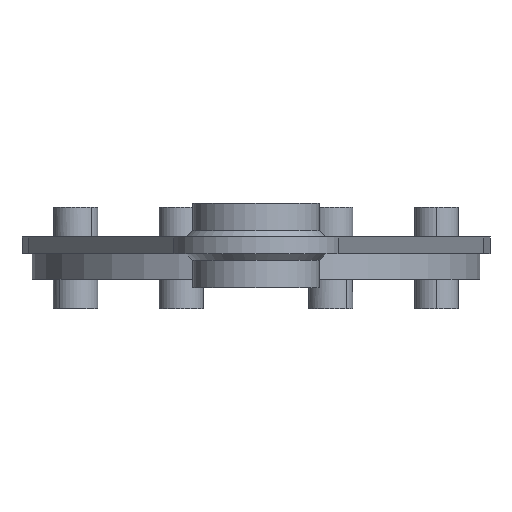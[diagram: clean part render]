
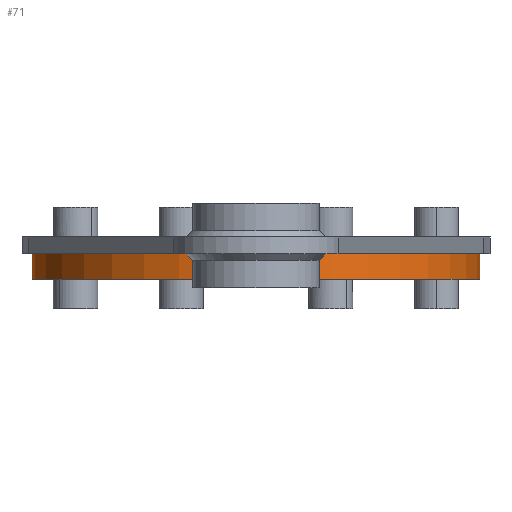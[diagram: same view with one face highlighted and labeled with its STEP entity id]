
A CAD part, front view. The second image highlights one B-rep face of the part: STEP entity #71.
In plain terms, the highlighted cylindrical face has radius 106 mm (diameter 212 mm), a partial arc.
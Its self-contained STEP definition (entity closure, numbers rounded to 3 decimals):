
#71=ADVANCED_FACE('',(#142),#1174,.T.);
#142=FACE_OUTER_BOUND('',#227,.T.);
#227=EDGE_LOOP('',(#414,#415,#416,#417));
#414=ORIENTED_EDGE('',*,*,#735,.T.);
#415=ORIENTED_EDGE('',*,*,#659,.F.);
#416=ORIENTED_EDGE('',*,*,#661,.F.);
#417=ORIENTED_EDGE('',*,*,#660,.T.);
#659=EDGE_CURVE('',#1042,#1121,#851,.T.);
#660=EDGE_CURVE('',#1068,#1120,#852,.T.);
#661=EDGE_CURVE('',#1068,#1042,#779,.T.);
#735=EDGE_CURVE('',#1120,#1121,#802,.T.);
#779=B_SPLINE_CURVE_WITH_KNOTS('',1,(#2232,#2233),.UNSPECIFIED.,.F.,.F.,
(2,2),(1.26,13.26),.UNSPECIFIED.);
#802=B_SPLINE_CURVE_WITH_KNOTS('',1,(#2431,#2432),.UNSPECIFIED.,.F.,.F.,
(2,2),(1.26,13.26),.UNSPECIFIED.);
#851=TRIMMED_CURVE($,#957,(#2227),(#2228),.T.,.CARTESIAN.);
#852=TRIMMED_CURVE($,#958,(#2230),(#2231),.T.,.CARTESIAN.);
#957=CIRCLE('',#1488,106.);
#958=CIRCLE('',#1489,106.);
#1042=VERTEX_POINT('',#1971);
#1068=VERTEX_POINT('',#1997);
#1120=VERTEX_POINT('',#2049);
#1121=VERTEX_POINT('',#2050);
#1174=CYLINDRICAL_SURFACE('',#1409,106.);
#1409=AXIS2_PLACEMENT_3D('',#1893,#1588,$);
#1488=AXIS2_PLACEMENT_3D($,#2226,#1707,#1708);
#1489=AXIS2_PLACEMENT_3D($,#2229,#1709,#1710);
#1588=DIRECTION('',(0.,0.,-1.));
#1707=DIRECTION('',(0.,0.,-1.));
#1708=DIRECTION('',(1.,0.,0.));
#1709=DIRECTION('',(0.,0.,-1.));
#1710=DIRECTION('',(1.,0.,0.));
#1893=CARTESIAN_POINT('',(0.,0.,10.));
#1971=CARTESIAN_POINT('',(106.,0.,4.));
#1997=CARTESIAN_POINT('',(106.,0.,16.));
#2049=CARTESIAN_POINT('',(-106.,0.,16.));
#2050=CARTESIAN_POINT('',(-106.,0.,4.));
#2226=CARTESIAN_POINT('',(0.,0.,4.));
#2227=CARTESIAN_POINT('',(106.,0.,4.));
#2228=CARTESIAN_POINT('',(-106.,0.,4.));
#2229=CARTESIAN_POINT('',(0.,0.,16.));
#2230=CARTESIAN_POINT('',(106.,0.,16.));
#2231=CARTESIAN_POINT('',(-106.,0.,16.));
#2232=CARTESIAN_POINT('',(106.,0.,16.));
#2233=CARTESIAN_POINT('',(106.,0.,4.));
#2431=CARTESIAN_POINT('',(-106.,0.,16.));
#2432=CARTESIAN_POINT('',(-106.,0.,4.));
